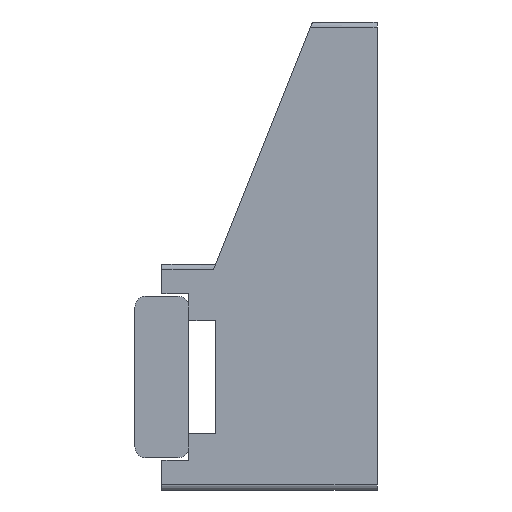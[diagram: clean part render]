
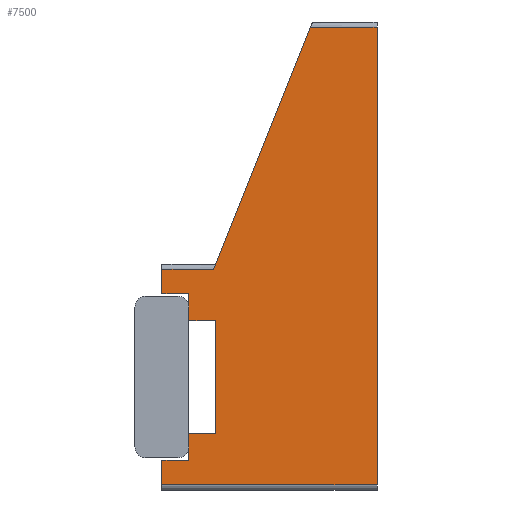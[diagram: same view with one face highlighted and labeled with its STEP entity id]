
A CAD part, left-side view. The second image highlights one B-rep face of the part: STEP entity #7500.
In plain terms, the highlighted planar face has unit normal (-1, 0, 0).
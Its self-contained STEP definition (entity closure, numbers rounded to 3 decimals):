
#123 = VECTOR ( 'NONE', #8108, 1000. ) ;
#130 = CARTESIAN_POINT ( 'NONE',  ( -10.5, 0., 32.5 ) ) ;
#238 = DIRECTION ( 'NONE',  ( 0., 1., 0. ) ) ;
#373 = CARTESIAN_POINT ( 'NONE',  ( -10.5, 0., 0. ) ) ;
#412 = LINE ( 'NONE', #8059, #9979 ) ;
#467 = LINE ( 'NONE', #8230, #7926 ) ;
#522 = DIRECTION ( 'NONE',  ( 0., -1., 0. ) ) ;
#550 = EDGE_CURVE ( 'NONE', #6070, #2610, #6937, .T. ) ;
#897 = VECTOR ( 'NONE', #7263, 1000. ) ;
#1006 = DIRECTION ( 'NONE',  ( 0., 0., 1. ) ) ;
#1031 = DIRECTION ( 'NONE',  ( 0., -0.371, 0.928 ) ) ;
#1103 = VERTEX_POINT ( 'NONE', #10156 ) ;
#1166 = DIRECTION ( 'NONE',  ( 0., 0., -1. ) ) ;
#1175 = ORIENTED_EDGE ( 'NONE', *, *, #4251, .F. ) ;
#1232 = PLANE ( 'NONE',  #3504 ) ;
#1270 = EDGE_CURVE ( 'NONE', #7699, #2746, #2449, .T. ) ;
#1290 = VECTOR ( 'NONE', #9104, 1000. ) ;
#1301 = VERTEX_POINT ( 'NONE', #7288 ) ;
#1529 = CARTESIAN_POINT ( 'NONE',  ( -10.5, -2.3, 10. ) ) ;
#1531 = LINE ( 'NONE', #2904, #5371 ) ;
#1601 = EDGE_CURVE ( 'NONE', #2610, #4971, #1823, .T. ) ;
#1669 = ORIENTED_EDGE ( 'NONE', *, *, #8184, .F. ) ;
#1756 = ORIENTED_EDGE ( 'NONE', *, *, #550, .F. ) ;
#1823 = LINE ( 'NONE', #6127, #8775 ) ;
#1906 = ORIENTED_EDGE ( 'NONE', *, *, #9398, .F. ) ;
#2245 = LINE ( 'NONE', #9715, #123 ) ;
#2378 = CARTESIAN_POINT ( 'NONE',  ( -10.5, -2.5, -5.25 ) ) ;
#2412 = EDGE_CURVE ( 'NONE', #1301, #7411, #8869, .T. ) ;
#2449 = LINE ( 'NONE', #7388, #2576 ) ;
#2576 = VECTOR ( 'NONE', #2604, 1000. ) ;
#2604 = DIRECTION ( 'NONE',  ( 0., 0., 1. ) ) ;
#2610 = VERTEX_POINT ( 'NONE', #6843 ) ;
#2746 = VERTEX_POINT ( 'NONE', #3186 ) ;
#2879 = CARTESIAN_POINT ( 'NONE',  ( -10.5, 2.5, -7.75 ) ) ;
#2904 = CARTESIAN_POINT ( 'NONE',  ( -10.5, 0., 5.25 ) ) ;
#2915 = ORIENTED_EDGE ( 'NONE', *, *, #2412, .F. ) ;
#2937 = EDGE_CURVE ( 'NONE', #5249, #6652, #5740, .T. ) ;
#3156 = VERTEX_POINT ( 'NONE', #5986 ) ;
#3186 = CARTESIAN_POINT ( 'NONE',  ( -10.5, 2.5, -7.75 ) ) ;
#3238 = EDGE_CURVE ( 'NONE', #3156, #6070, #1531, .T. ) ;
#3431 = ORIENTED_EDGE ( 'NONE', *, *, #7175, .T. ) ;
#3461 = CARTESIAN_POINT ( 'NONE',  ( -10.5, 0., -7.75 ) ) ;
#3504 = AXIS2_PLACEMENT_3D ( 'NONE', #373, #10035, #1166 ) ;
#3763 = CARTESIAN_POINT ( 'NONE',  ( -10.5, 0., -7.75 ) ) ;
#3858 = ORIENTED_EDGE ( 'NONE', *, *, #6593, .T. ) ;
#3988 = EDGE_CURVE ( 'NONE', #5907, #1103, #7354, .T. ) ;
#4171 = CARTESIAN_POINT ( 'NONE',  ( -10.5, 0., 7.75 ) ) ;
#4239 = VECTOR ( 'NONE', #1031, 1000. ) ;
#4251 = EDGE_CURVE ( 'NONE', #5317, #6547, #9082, .T. ) ;
#4532 = CARTESIAN_POINT ( 'NONE',  ( -10.5, 2.5, -10. ) ) ;
#4971 = VERTEX_POINT ( 'NONE', #6407 ) ;
#4986 = LINE ( 'NONE', #7442, #6719 ) ;
#5058 = CARTESIAN_POINT ( 'NONE',  ( -10.5, -17.5, -10. ) ) ;
#5077 = ORIENTED_EDGE ( 'NONE', *, *, #9190, .F. ) ;
#5249 = VERTEX_POINT ( 'NONE', #1529 ) ;
#5317 = VERTEX_POINT ( 'NONE', #3763 ) ;
#5371 = VECTOR ( 'NONE', #8468, 1000. ) ;
#5375 = DIRECTION ( 'NONE',  ( 0., 0., 1. ) ) ;
#5397 = ORIENTED_EDGE ( 'NONE', *, *, #3238, .F. ) ;
#5648 = ORIENTED_EDGE ( 'NONE', *, *, #7934, .T. ) ;
#5740 = LINE ( 'NONE', #9756, #4239 ) ;
#5798 = ORIENTED_EDGE ( 'NONE', *, *, #3988, .F. ) ;
#5801 = CARTESIAN_POINT ( 'NONE',  ( -10.5, -17.5, -5.5 ) ) ;
#5810 = VECTOR ( 'NONE', #7345, 1000. ) ;
#5907 = VERTEX_POINT ( 'NONE', #8656 ) ;
#5986 = CARTESIAN_POINT ( 'NONE',  ( -10.5, 0., 5.25 ) ) ;
#6070 = VERTEX_POINT ( 'NONE', #4171 ) ;
#6127 = CARTESIAN_POINT ( 'NONE',  ( -10.5, 2.5, 7.75 ) ) ;
#6225 = ORIENTED_EDGE ( 'NONE', *, *, #1270, .F. ) ;
#6230 = DIRECTION ( 'NONE',  ( 0., 0., 1. ) ) ;
#6240 = VECTOR ( 'NONE', #6230, 1000. ) ;
#6407 = CARTESIAN_POINT ( 'NONE',  ( -10.5, 2.5, 10. ) ) ;
#6547 = VERTEX_POINT ( 'NONE', #7242 ) ;
#6593 = EDGE_CURVE ( 'NONE', #7699, #7411, #412, .T. ) ;
#6652 = VERTEX_POINT ( 'NONE', #9802 ) ;
#6675 = DIRECTION ( 'NONE',  ( 0., 1., 0. ) ) ;
#6719 = VECTOR ( 'NONE', #6675, 1000. ) ;
#6843 = CARTESIAN_POINT ( 'NONE',  ( -10.5, 2.5, 7.75 ) ) ;
#6872 = LINE ( 'NONE', #130, #897 ) ;
#6937 = LINE ( 'NONE', #7276, #5810 ) ;
#7056 = LINE ( 'NONE', #2879, #7796 ) ;
#7175 = EDGE_CURVE ( 'NONE', #1301, #6652, #6872, .T. ) ;
#7242 = CARTESIAN_POINT ( 'NONE',  ( -10.5, 0., -5.25 ) ) ;
#7263 = DIRECTION ( 'NONE',  ( 0., 1., 0. ) ) ;
#7276 = CARTESIAN_POINT ( 'NONE',  ( -10.5, 0., 7.75 ) ) ;
#7288 = CARTESIAN_POINT ( 'NONE',  ( -10.5, -17.5, 32.5 ) ) ;
#7335 = ORIENTED_EDGE ( 'NONE', *, *, #2937, .F. ) ;
#7345 = DIRECTION ( 'NONE',  ( 0., 1., 0. ) ) ;
#7354 = LINE ( 'NONE', #2378, #6240 ) ;
#7361 = FACE_OUTER_BOUND ( 'NONE', #10218, .T. ) ;
#7388 = CARTESIAN_POINT ( 'NONE',  ( -10.5, 2.5, -10.5 ) ) ;
#7411 = VERTEX_POINT ( 'NONE', #5058 ) ;
#7442 = CARTESIAN_POINT ( 'NONE',  ( -10.5, 0., 10. ) ) ;
#7500 = ADVANCED_FACE ( 'NONE', ( #7361 ), #1232, .F. ) ;
#7699 = VERTEX_POINT ( 'NONE', #4532 ) ;
#7796 = VECTOR ( 'NONE', #522, 1000. ) ;
#7926 = VECTOR ( 'NONE', #238, 1000. ) ;
#7934 = EDGE_CURVE ( 'NONE', #5249, #4971, #4986, .T. ) ;
#8059 = CARTESIAN_POINT ( 'NONE',  ( -10.5, 0., -10. ) ) ;
#8108 = DIRECTION ( 'NONE',  ( 0., -1., 0. ) ) ;
#8184 = EDGE_CURVE ( 'NONE', #6547, #5907, #2245, .T. ) ;
#8230 = CARTESIAN_POINT ( 'NONE',  ( -10.5, -2.5, 5.25 ) ) ;
#8468 = DIRECTION ( 'NONE',  ( 0., 0., 1. ) ) ;
#8595 = VECTOR ( 'NONE', #1006, 1000. ) ;
#8656 = CARTESIAN_POINT ( 'NONE',  ( -10.5, -2.5, -5.25 ) ) ;
#8775 = VECTOR ( 'NONE', #5375, 1000. ) ;
#8869 = LINE ( 'NONE', #5801, #1290 ) ;
#8873 = DIRECTION ( 'NONE',  ( 0., -1., 0. ) ) ;
#9082 = LINE ( 'NONE', #3461, #8595 ) ;
#9104 = DIRECTION ( 'NONE',  ( 0., 0., -1. ) ) ;
#9190 = EDGE_CURVE ( 'NONE', #1103, #3156, #467, .T. ) ;
#9398 = EDGE_CURVE ( 'NONE', #2746, #5317, #7056, .T. ) ;
#9715 = CARTESIAN_POINT ( 'NONE',  ( -10.5, 0., -5.25 ) ) ;
#9756 = CARTESIAN_POINT ( 'NONE',  ( -10.5, -2.5, 10.5 ) ) ;
#9802 = CARTESIAN_POINT ( 'NONE',  ( -10.5, -11.3, 32.5 ) ) ;
#9979 = VECTOR ( 'NONE', #8873, 1000. ) ;
#10035 = DIRECTION ( 'NONE',  ( 1., 0., 0. ) ) ;
#10124 = ORIENTED_EDGE ( 'NONE', *, *, #1601, .F. ) ;
#10156 = CARTESIAN_POINT ( 'NONE',  ( -10.5, -2.5, 5.25 ) ) ;
#10218 = EDGE_LOOP ( 'NONE', ( #7335, #5648, #10124, #1756, #5397, #5077, #5798, #1669, #1175, #1906, #6225, #3858, #2915, #3431 ) ) ;
